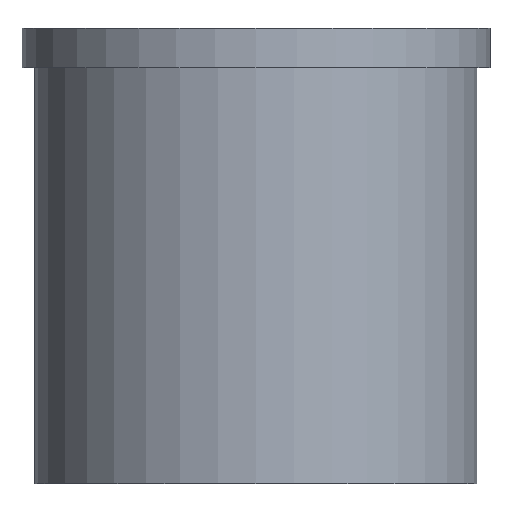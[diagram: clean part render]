
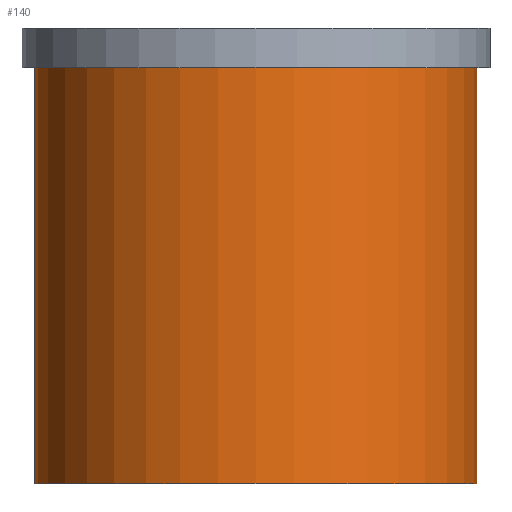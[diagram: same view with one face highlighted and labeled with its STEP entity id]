
A CAD part, front view. The second image highlights one B-rep face of the part: STEP entity #140.
In plain terms, the highlighted cylindrical face has radius 17 mm (diameter 34 mm), a partial arc.
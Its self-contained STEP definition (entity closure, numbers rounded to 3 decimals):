
#101=CYLINDRICAL_SURFACE('',#313,17.);
#107=LINE('',#441,#113);
#108=LINE('',#442,#114);
#113=VECTOR('',#383,1.);
#114=VECTOR('',#384,1.);
#127=FACE_OUTER_BOUND('',#165,.T.);
#140=ADVANCED_FACE('',(#127),#101,.T.);
#165=EDGE_LOOP('',(#211,#212,#213,#214));
#211=ORIENTED_EDGE('',*,*,#259,.T.);
#212=ORIENTED_EDGE('',*,*,#236,.F.);
#213=ORIENTED_EDGE('',*,*,#260,.F.);
#214=ORIENTED_EDGE('',*,*,#257,.T.);
#219=VERTEX_POINT('',#391);
#220=VERTEX_POINT('',#392);
#233=VERTEX_POINT('',#437);
#234=VERTEX_POINT('',#438);
#236=EDGE_CURVE('',#220,#219,#262,.T.);
#257=EDGE_CURVE('',#233,#234,#279,.T.);
#259=EDGE_CURVE('',#234,#219,#107,.T.);
#260=EDGE_CURVE('',#233,#220,#108,.T.);
#262=CIRCLE('',#283,17.);
#279=CIRCLE('',#310,17.);
#283=AXIS2_PLACEMENT_3D('',#393,#319,#320);
#310=AXIS2_PLACEMENT_3D('',#436,#377,#378);
#313=AXIS2_PLACEMENT_3D('',#443,#385,#386);
#319=DIRECTION('',(0.,0.,-1.));
#320=DIRECTION('',(0.,1.,0.));
#377=DIRECTION('',(0.,0.,-1.));
#378=DIRECTION('',(0.,1.,0.));
#383=DIRECTION('',(0.,0.,-1.));
#384=DIRECTION('',(0.,0.,-1.));
#385=DIRECTION('',(0.,0.,-1.));
#386=DIRECTION('',(0.,-1.,0.));
#391=CARTESIAN_POINT('',(-17.,0.,-32.));
#392=CARTESIAN_POINT('',(17.,0.,-32.));
#393=CARTESIAN_POINT('',(0.,0.,-32.));
#436=CARTESIAN_POINT('',(0.,0.,0.));
#437=CARTESIAN_POINT('',(17.,0.,0.));
#438=CARTESIAN_POINT('',(-17.,0.,0.));
#441=CARTESIAN_POINT('',(-17.,0.,-32.));
#442=CARTESIAN_POINT('',(17.,0.,-32.));
#443=CARTESIAN_POINT('',(0.,0.,0.));
